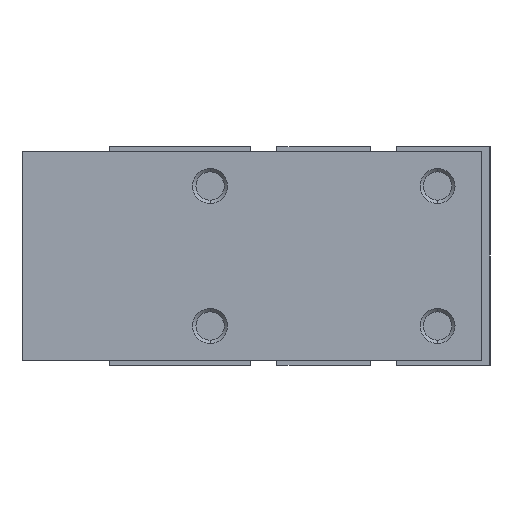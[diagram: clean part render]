
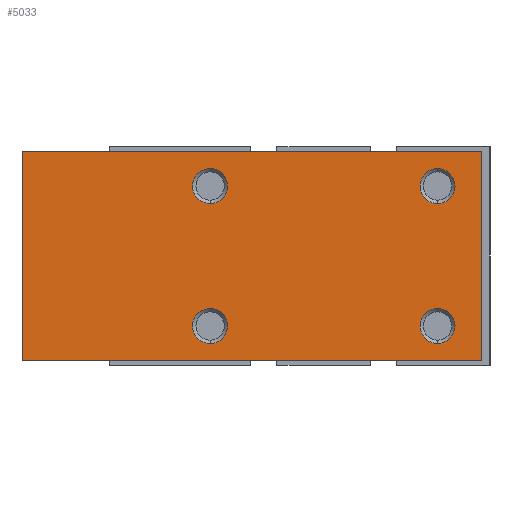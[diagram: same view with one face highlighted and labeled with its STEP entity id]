
A CAD part, left-side view. The second image highlights one B-rep face of the part: STEP entity #5033.
In plain terms, the highlighted planar face has unit normal (-1, 0, 0).
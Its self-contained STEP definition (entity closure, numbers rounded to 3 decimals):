
#97 = EDGE_CURVE ( 'NONE', #3191, #2012, #4437, .T. ) ;
#223 = EDGE_CURVE ( 'NONE', #3815, #4545, #1334, .T. ) ;
#227 = LINE ( 'NONE', #5388, #3497 ) ;
#260 = AXIS2_PLACEMENT_3D ( 'NONE', #5391, #4480, #2106 ) ;
#284 = EDGE_CURVE ( 'NONE', #4789, #4168, #655, .T. ) ;
#314 = CARTESIAN_POINT ( 'NONE',  ( -14., -18., -12. ) ) ;
#322 = DIRECTION ( 'NONE',  ( 0., 0., 1. ) ) ;
#367 = VECTOR ( 'NONE', #918, 1000. ) ;
#371 = EDGE_LOOP ( 'NONE', ( #5986, #571 ) ) ;
#396 = AXIS2_PLACEMENT_3D ( 'NONE', #4753, #5250, #4348 ) ;
#457 = DIRECTION ( 'NONE',  ( 0., -1., 0. ) ) ;
#492 = FACE_BOUND ( 'NONE', #3689, .T. ) ;
#544 = VERTEX_POINT ( 'NONE', #5587 ) ;
#571 = ORIENTED_EDGE ( 'NONE', *, *, #1662, .F. ) ;
#655 = CIRCLE ( 'NONE', #4535, 2. ) ;
#696 = CARTESIAN_POINT ( 'NONE',  ( -14., 34.5, -12. ) ) ;
#757 = VECTOR ( 'NONE', #457, 1000. ) ;
#770 = AXIS2_PLACEMENT_3D ( 'NONE', #5470, #2187, #5007 ) ;
#775 = ORIENTED_EDGE ( 'NONE', *, *, #97, .F. ) ;
#829 = VERTEX_POINT ( 'NONE', #2019 ) ;
#857 = AXIS2_PLACEMENT_3D ( 'NONE', #2497, #5340, #1589 ) ;
#912 = CARTESIAN_POINT ( 'NONE',  ( -14., 13., -10. ) ) ;
#913 = DIRECTION ( 'NONE',  ( 0., 0., -1. ) ) ;
#918 = DIRECTION ( 'NONE',  ( 0., -1., 0. ) ) ;
#1020 = ORIENTED_EDGE ( 'NONE', *, *, #284, .F. ) ;
#1039 = CARTESIAN_POINT ( 'NONE',  ( -14., -13., -6. ) ) ;
#1085 = CARTESIAN_POINT ( 'NONE',  ( -14., -18., 12. ) ) ;
#1152 = VERTEX_POINT ( 'NONE', #1085 ) ;
#1257 = ORIENTED_EDGE ( 'NONE', *, *, #5544, .F. ) ;
#1333 = VERTEX_POINT ( 'NONE', #696 ) ;
#1334 = CIRCLE ( 'NONE', #5337, 2. ) ;
#1395 = DIRECTION ( 'NONE',  ( -1., 0., 0. ) ) ;
#1446 = CARTESIAN_POINT ( 'NONE',  ( -14., 34.5, 12. ) ) ;
#1471 = EDGE_CURVE ( 'NONE', #544, #1333, #3747, .T. ) ;
#1496 = ORIENTED_EDGE ( 'NONE', *, *, #4482, .F. ) ;
#1589 = DIRECTION ( 'NONE',  ( 0., 0., 1. ) ) ;
#1596 = CIRCLE ( 'NONE', #396, 2. ) ;
#1662 = EDGE_CURVE ( 'NONE', #829, #4830, #6140, .T. ) ;
#1734 = AXIS2_PLACEMENT_3D ( 'NONE', #2962, #4872, #4402 ) ;
#1796 = DIRECTION ( 'NONE',  ( -1., 0., 0. ) ) ;
#1858 = DIRECTION ( 'NONE',  ( 0., 0., 1. ) ) ;
#1925 = EDGE_CURVE ( 'NONE', #1333, #3912, #5705, .T. ) ;
#1992 = FACE_BOUND ( 'NONE', #4345, .T. ) ;
#2012 = VERTEX_POINT ( 'NONE', #2490 ) ;
#2019 = CARTESIAN_POINT ( 'NONE',  ( -14., 13., 6. ) ) ;
#2037 = CARTESIAN_POINT ( 'NONE',  ( -14., 13., -6. ) ) ;
#2043 = EDGE_LOOP ( 'NONE', ( #1496, #1020 ) ) ;
#2106 = DIRECTION ( 'NONE',  ( 0., 0., 1. ) ) ;
#2142 = ORIENTED_EDGE ( 'NONE', *, *, #3811, .F. ) ;
#2187 = DIRECTION ( 'NONE',  ( -1., 0., 0. ) ) ;
#2309 = ORIENTED_EDGE ( 'NONE', *, *, #4046, .F. ) ;
#2399 = DIRECTION ( 'NONE',  ( 1., 0., 0. ) ) ;
#2489 = FACE_BOUND ( 'NONE', #371, .T. ) ;
#2490 = CARTESIAN_POINT ( 'NONE',  ( -14., -13., 6. ) ) ;
#2497 = CARTESIAN_POINT ( 'NONE',  ( -14., 13., 8. ) ) ;
#2516 = DIRECTION ( 'NONE',  ( 0., 1., 0. ) ) ;
#2657 = DIRECTION ( 'NONE',  ( 0., 0., -1. ) ) ;
#2780 = CARTESIAN_POINT ( 'NONE',  ( -14., 34.5, 12. ) ) ;
#2786 = CARTESIAN_POINT ( 'NONE',  ( -14., 34.5, 12. ) ) ;
#2962 = CARTESIAN_POINT ( 'NONE',  ( -14., -13., 8. ) ) ;
#3073 = AXIS2_PLACEMENT_3D ( 'NONE', #3812, #1395, #5242 ) ;
#3143 = VECTOR ( 'NONE', #913, 1000. ) ;
#3157 = CIRCLE ( 'NONE', #260, 2. ) ;
#3191 = VERTEX_POINT ( 'NONE', #4492 ) ;
#3211 = CARTESIAN_POINT ( 'NONE',  ( -14., 13., 10. ) ) ;
#3309 = CARTESIAN_POINT ( 'NONE',  ( -14., 34.5, -12. ) ) ;
#3497 = VECTOR ( 'NONE', #2657, 1000. ) ;
#3592 = DIRECTION ( 'NONE',  ( -1., 0., 0. ) ) ;
#3597 = CARTESIAN_POINT ( 'NONE',  ( -14., -13., -10. ) ) ;
#3689 = EDGE_LOOP ( 'NONE', ( #775, #4500 ) ) ;
#3747 = LINE ( 'NONE', #2780, #3143 ) ;
#3811 = EDGE_CURVE ( 'NONE', #4545, #3815, #3157, .T. ) ;
#3812 = CARTESIAN_POINT ( 'NONE',  ( -14., -13., -8. ) ) ;
#3815 = VERTEX_POINT ( 'NONE', #2037 ) ;
#3831 = FACE_BOUND ( 'NONE', #2043, .T. ) ;
#3902 = PLANE ( 'NONE',  #4778 ) ;
#3912 = VERTEX_POINT ( 'NONE', #314 ) ;
#4046 = EDGE_CURVE ( 'NONE', #544, #1152, #5192, .T. ) ;
#4168 = VERTEX_POINT ( 'NONE', #1039 ) ;
#4345 = EDGE_LOOP ( 'NONE', ( #5847, #2142 ) ) ;
#4348 = DIRECTION ( 'NONE',  ( 0., 0., 1. ) ) ;
#4382 = EDGE_CURVE ( 'NONE', #4830, #829, #4666, .T. ) ;
#4402 = DIRECTION ( 'NONE',  ( 0., 0., 1. ) ) ;
#4437 = CIRCLE ( 'NONE', #1734, 2. ) ;
#4480 = DIRECTION ( 'NONE',  ( -1., 0., 0. ) ) ;
#4482 = EDGE_CURVE ( 'NONE', #4168, #4789, #6048, .T. ) ;
#4492 = CARTESIAN_POINT ( 'NONE',  ( -14., -13., 10. ) ) ;
#4500 = ORIENTED_EDGE ( 'NONE', *, *, #5919, .F. ) ;
#4535 = AXIS2_PLACEMENT_3D ( 'NONE', #5700, #1796, #1858 ) ;
#4538 = ORIENTED_EDGE ( 'NONE', *, *, #1925, .T. ) ;
#4545 = VERTEX_POINT ( 'NONE', #912 ) ;
#4666 = CIRCLE ( 'NONE', #770, 2. ) ;
#4749 = EDGE_LOOP ( 'NONE', ( #4538, #1257, #2309, #6052 ) ) ;
#4753 = CARTESIAN_POINT ( 'NONE',  ( -14., -13., 8. ) ) ;
#4778 = AXIS2_PLACEMENT_3D ( 'NONE', #1446, #2399, #2516 ) ;
#4789 = VERTEX_POINT ( 'NONE', #3597 ) ;
#4830 = VERTEX_POINT ( 'NONE', #3211 ) ;
#4835 = FACE_OUTER_BOUND ( 'NONE', #4749, .T. ) ;
#4872 = DIRECTION ( 'NONE',  ( -1., 0., 0. ) ) ;
#5007 = DIRECTION ( 'NONE',  ( 0., 0., 1. ) ) ;
#5033 = ADVANCED_FACE ( 'NONE', ( #4835, #1992, #492, #3831, #2489 ), #3902, .F. ) ;
#5192 = LINE ( 'NONE', #2786, #367 ) ;
#5242 = DIRECTION ( 'NONE',  ( 0., 0., 1. ) ) ;
#5250 = DIRECTION ( 'NONE',  ( -1., 0., 0. ) ) ;
#5337 = AXIS2_PLACEMENT_3D ( 'NONE', #5952, #3592, #322 ) ;
#5340 = DIRECTION ( 'NONE',  ( -1., 0., 0. ) ) ;
#5388 = CARTESIAN_POINT ( 'NONE',  ( -14., -18., 12. ) ) ;
#5391 = CARTESIAN_POINT ( 'NONE',  ( -14., 13., -8. ) ) ;
#5470 = CARTESIAN_POINT ( 'NONE',  ( -14., 13., 8. ) ) ;
#5544 = EDGE_CURVE ( 'NONE', #1152, #3912, #227, .T. ) ;
#5587 = CARTESIAN_POINT ( 'NONE',  ( -14., 34.5, 12. ) ) ;
#5700 = CARTESIAN_POINT ( 'NONE',  ( -14., -13., -8. ) ) ;
#5705 = LINE ( 'NONE', #3309, #757 ) ;
#5847 = ORIENTED_EDGE ( 'NONE', *, *, #223, .F. ) ;
#5919 = EDGE_CURVE ( 'NONE', #2012, #3191, #1596, .T. ) ;
#5952 = CARTESIAN_POINT ( 'NONE',  ( -14., 13., -8. ) ) ;
#5986 = ORIENTED_EDGE ( 'NONE', *, *, #4382, .F. ) ;
#6048 = CIRCLE ( 'NONE', #3073, 2. ) ;
#6052 = ORIENTED_EDGE ( 'NONE', *, *, #1471, .T. ) ;
#6140 = CIRCLE ( 'NONE', #857, 2. ) ;
